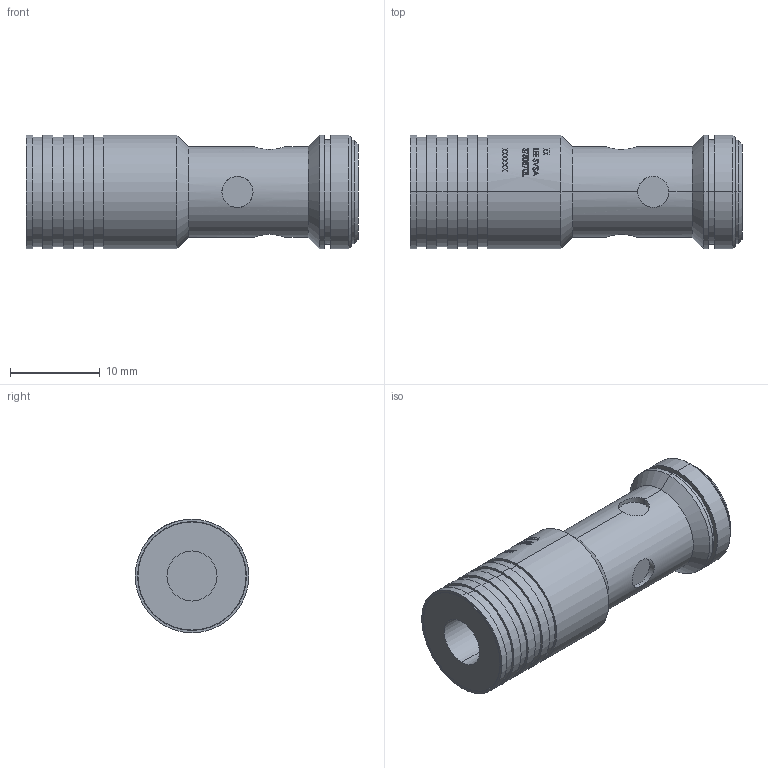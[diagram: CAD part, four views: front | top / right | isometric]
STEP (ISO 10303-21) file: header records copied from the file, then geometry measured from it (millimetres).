
FILE_DESCRIPTION (( 'STEP AP214' ), '1' );
FILE_NAME ('3DSVSA5000330L.STEP', '2021-04-01T17:45:06', ( '' ), ( '' ), 'SwSTEP 2.0', 'SolidWorks 2019', '' );
FILE_SCHEMA (( 'AUTOMOTIVE_DESIGN' ));
Length unit declared in the file: inch
Products named in the file (1): 3DSVSA5000330L
Bounding box: 37.08 x 12.7 x 12.7 mm (x, y, z)
Volume: 3680 mm3; surface area: 1949.3 mm2
Topology: 1 solids, 1 shells, 357 faces, 924 edges, 610 vertices
Faces by surface type: bspline 170, plane 111, cylinder 62, cone 14
Entity records: 18587 total; most frequent: CARTESIAN_POINT 7530, ORIENTED_EDGE 1848, DIRECTION 948, EDGE_CURVE 924, VERTEX_POINT 610, B_SPLINE_CURVE_WITH_KNOTS 568, AXIS2_PLACEMENT_3D 404, EDGE_LOOP 398
